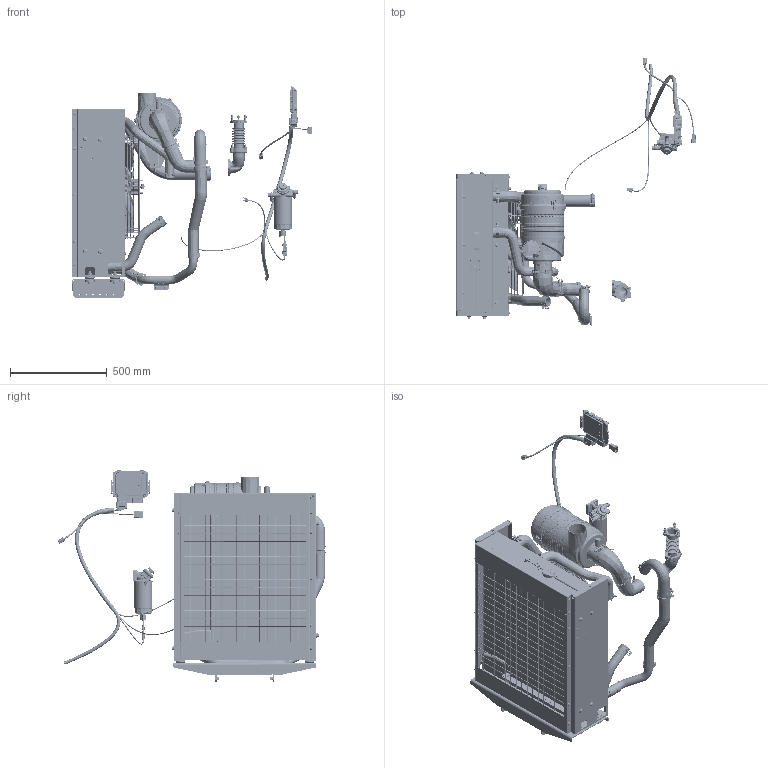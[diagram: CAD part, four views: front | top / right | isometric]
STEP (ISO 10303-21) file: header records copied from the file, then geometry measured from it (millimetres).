
FILE_DESCRIPTION(('CATIA V5 STEP Exchange','CAx-IF Rec.Pracs.--- Model Styling and Organization---1.2---2011-12-15'),'2;1');
FILE_NAME('C:\Users\duwei\Desktop\P90-00004 LOOSEN PARTS.stp','2023-06-25T03:33:18+00:00',('none'),('none'),'CATIA Version 5-6 Release 2014 SP1','CATIA V5 STEP AP214','none');
FILE_SCHEMA(('AUTOMOTIVE_DESIGN { 1 0 10303 214 1 1 1 1 }'));
Products named in the file (34): P90-00004; P901-00002; E430215-00003; E210101-00001; E120106-00066; E420109-00006; E120202-00018; E120202-00008; E420109-00007; E120202-00007; E440211-00001C; P905-00004; E400403-00024A; P906-00001; E120106-00007; E120202-00012; E120202-00010; E420203-00008; E240104-00001; E400629-00002; E120117-00006; E120305-00008; E400414-00001; E120106-00016; E120106-00052; E420101-00005; E420101-00006; E120202-00022; E120202-00021; E120202-00020; P907-00004; E310207-00029; P713-00001; E300618-00001
Assembly tree (68 placements, depth 3):
  P90-00004
    P901-00002
      E430215-00003
      E210101-00001
      E120106-00066  x4
      E420109-00006
      E120202-00018  x2
      E120202-00008
      E420109-00007
      E120202-00007
      E440211-00001C
    P905-00004
      E400403-00024A
    P906-00001
      #475478
      E120106-00007  x2
      #482260
      E120202-00018  x2
      E120202-00012  x5
      #492725
      #496836
      #501858
      #505762
      E120202-00010
      E420203-00008
      E240104-00001
      E400629-00002  x2
      E120117-00006  x6
      E120305-00008  x6
      E400414-00001
      #733019
      E120106-00016  x4
      E120106-00052  x2
      E420101-00005
      #743429
      E420101-00006
      E120202-00022
      E120202-00021  x2
      E120202-00020
    P907-00004
      E310207-00029
    P713-00001
      E300618-00001
Bounding box: 1241.32 x 1391.07 x 1092.5 mm (x, y, z)
Volume: 48989040.4 mm3; surface area: 13245670.4 mm2
Topology: 376 solids, 7939 shells, 26365 faces, 86538 edges, 68196 vertices
Faces by surface type: plane 8999, cylinder 8039, bspline 3841, revolution 2064, cone 1846, torus 1325, sphere 142, extrusion 109
Entity records: 1215410 total; most frequent: CARTESIAN_POINT 587823, ORIENTED_EDGE 121446, DIRECTION 89096, EDGE_CURVE 80465, VERTEX_POINT 64719, VECTOR 34482, AXIS2_PLACEMENT_3D 34389, LINE 34373
